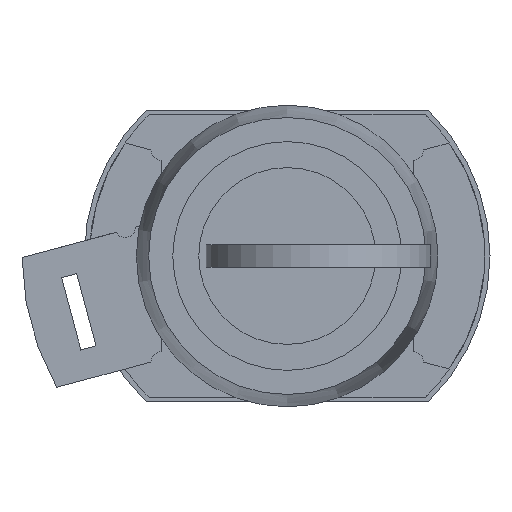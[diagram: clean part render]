
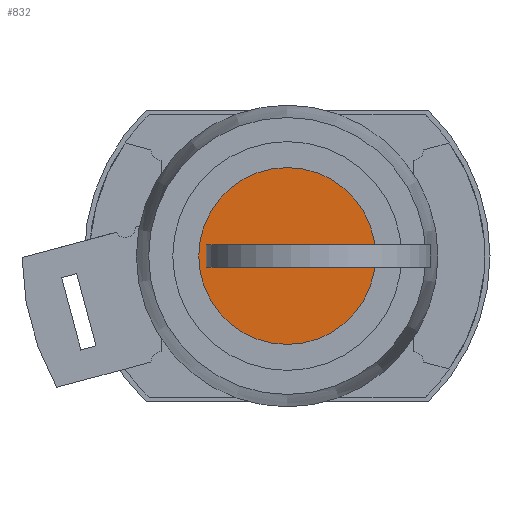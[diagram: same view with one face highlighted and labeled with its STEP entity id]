
A CAD part, left-side view. The second image highlights one B-rep face of the part: STEP entity #832.
In plain terms, the highlighted planar face has unit normal (-1, 0, 0).
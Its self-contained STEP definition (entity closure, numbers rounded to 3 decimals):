
#690 = ORIENTED_EDGE ( 'NONE', *, *, #2223, .T. ) ;
#691 = ORIENTED_EDGE ( 'NONE', *, *, #2226, .T. ) ;
#694 = ORIENTED_EDGE ( 'NONE', *, *, #2222, .T. ) ;
#695 = ORIENTED_EDGE ( 'NONE', *, *, #2253, .F. ) ;
#696 = ORIENTED_EDGE ( 'NONE', *, *, #2224, .T. ) ;
#832 = ADVANCED_FACE ( 'NONE', ( #4730, #4707 ), #3578, .T. ) ;
#1182 = EDGE_LOOP ( 'NONE', ( #695 ) ) ;
#1186 = EDGE_LOOP ( 'NONE', ( #691, #694, #690, #696 ) ) ;
#2222 = EDGE_CURVE ( 'NONE', #3010, #3007, #6947, .T. ) ;
#2223 = EDGE_CURVE ( 'NONE', #3007, #3008, #6951, .T. ) ;
#2224 = EDGE_CURVE ( 'NONE', #3008, #3009, #6954, .T. ) ;
#2226 = EDGE_CURVE ( 'NONE', #3009, #3010, #6958, .T. ) ;
#2253 = EDGE_CURVE ( 'NONE', #8537, #8537, #6993, .T. ) ;
#2668 = AXIS2_PLACEMENT_3D ( 'NONE', #3570, #3579, #3580 ) ;
#3007 = VERTEX_POINT ( 'NONE', #8253 ) ;
#3008 = VERTEX_POINT ( 'NONE', #8254 ) ;
#3009 = VERTEX_POINT ( 'NONE', #8255 ) ;
#3010 = VERTEX_POINT ( 'NONE', #8256 ) ;
#3570 = CARTESIAN_POINT ( 'NONE',  ( -15., 4.25, 0. ) ) ;
#3578 = PLANE ( 'NONE',  #2668 ) ;
#3579 = DIRECTION ( 'NONE',  ( -1., 0., 0. ) ) ;
#3580 = DIRECTION ( 'NONE',  ( 0., 0., 1. ) ) ;
#4707 = FACE_OUTER_BOUND ( 'NONE', #1182, .T. ) ;
#4730 = FACE_BOUND ( 'NONE', #1186, .T. ) ;
#6357 = CARTESIAN_POINT ( 'NONE',  ( -15., 4.25, -1.1 ) ) ;
#6363 = CARTESIAN_POINT ( 'NONE',  ( -15., -7., 0. ) ) ;
#6364 = DIRECTION ( 'NONE',  ( 0., 0., -1. ) ) ;
#6366 = DIRECTION ( 'NONE',  ( 0., 1., 0. ) ) ;
#6367 = CARTESIAN_POINT ( 'NONE',  ( -15., 2., 0. ) ) ;
#6368 = DIRECTION ( 'NONE',  ( 0., 0., 1. ) ) ;
#6371 = CARTESIAN_POINT ( 'NONE',  ( -15., 4.25, 1.1 ) ) ;
#6372 = DIRECTION ( 'NONE',  ( 0., -1., 0. ) ) ;
#6442 = CARTESIAN_POINT ( 'NONE',  ( -15., 0., 0. ) ) ;
#6447 = DIRECTION ( 'NONE',  ( 1., 0., 0. ) ) ;
#6448 = DIRECTION ( 'NONE',  ( 0., 0., -1. ) ) ;
#6802 = AXIS2_PLACEMENT_3D ( 'NONE', #6442, #6447, #6448 ) ;
#6947 = LINE ( 'NONE', #6363, #6949 ) ;
#6949 = VECTOR ( 'NONE', #6364, 1000. ) ;
#6951 = LINE ( 'NONE', #6357, #6953 ) ;
#6953 = VECTOR ( 'NONE', #6366, 1000. ) ;
#6954 = LINE ( 'NONE', #6367, #6955 ) ;
#6955 = VECTOR ( 'NONE', #6368, 1000. ) ;
#6958 = LINE ( 'NONE', #6371, #6959 ) ;
#6959 = VECTOR ( 'NONE', #6372, 1000. ) ;
#6993 = CIRCLE ( 'NONE', #6802, 8.5 ) ;
#8253 = CARTESIAN_POINT ( 'NONE',  ( -15., -7., -1.1 ) ) ;
#8254 = CARTESIAN_POINT ( 'NONE',  ( -15., 2., -1.1 ) ) ;
#8255 = CARTESIAN_POINT ( 'NONE',  ( -15., 2., 1.1 ) ) ;
#8256 = CARTESIAN_POINT ( 'NONE',  ( -15., -7., 1.1 ) ) ;
#8537 = VERTEX_POINT ( 'NONE', #8538 ) ;
#8538 = CARTESIAN_POINT ( 'NONE',  ( -15., 0., -8.5 ) ) ;
